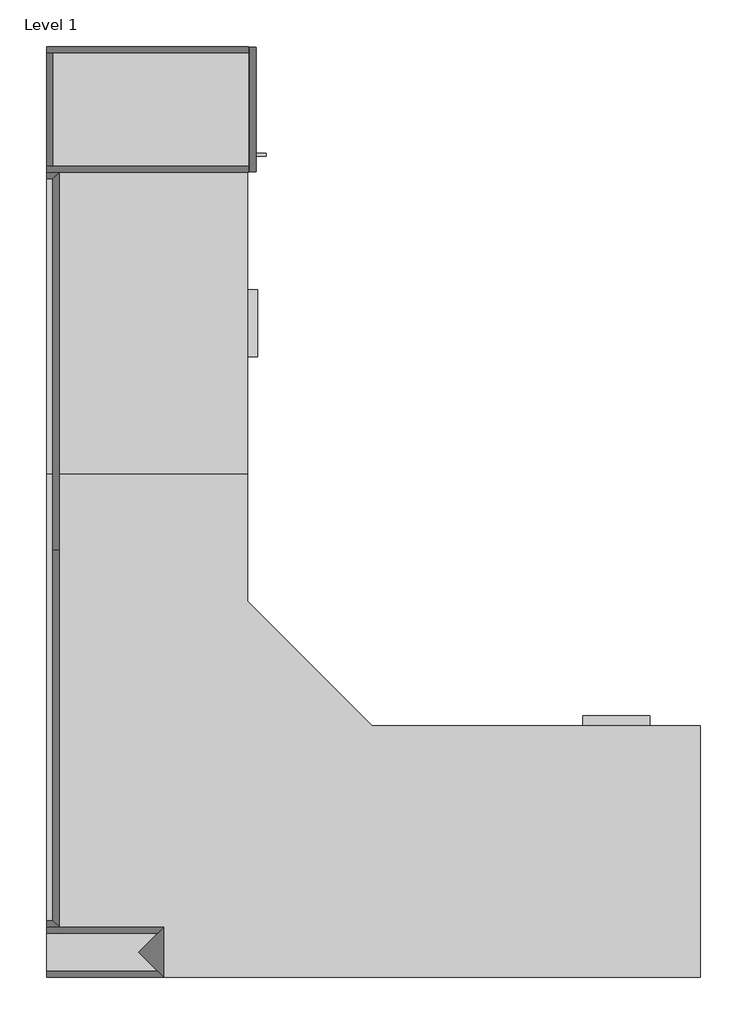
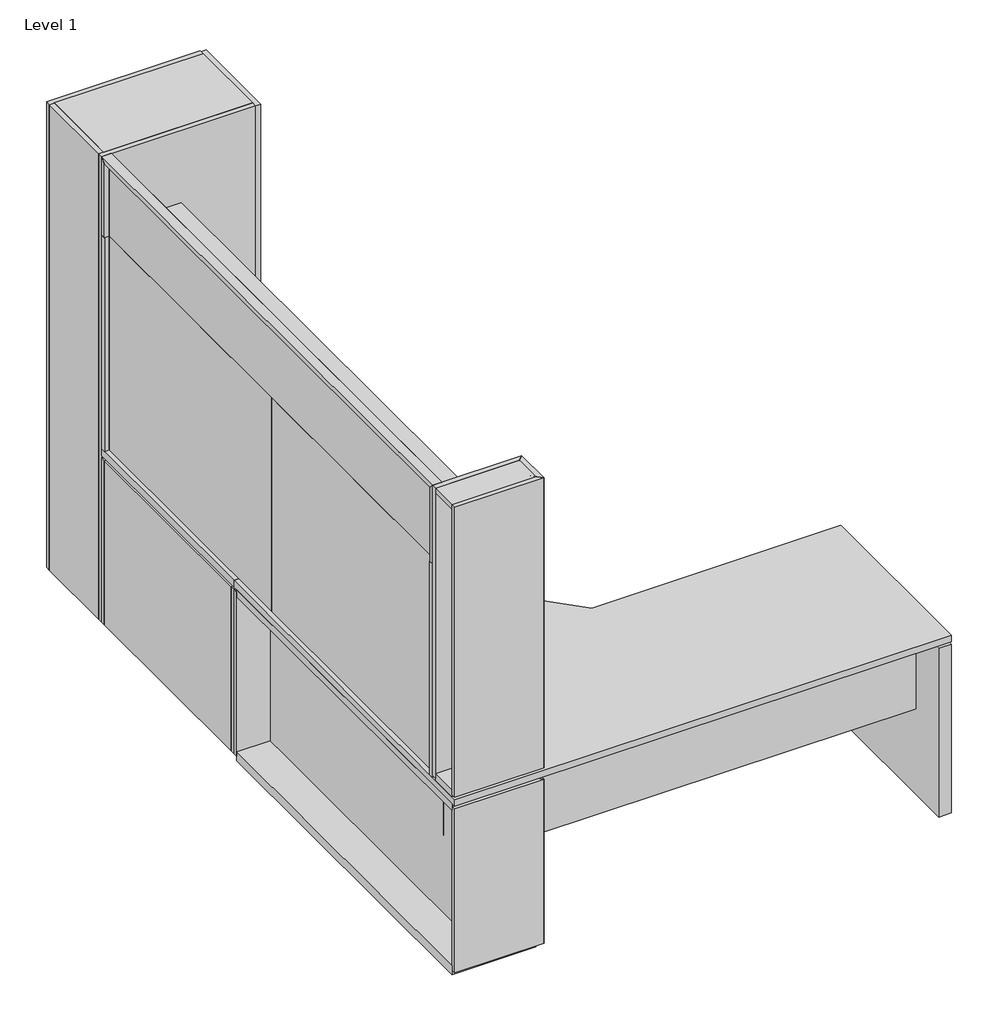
# One storey: 7 proxies.
"""IFC4 building model written with IfcOpenShell, lengths in millimetres."""

import ifcopenshell
import ifcopenshell.guid

model = None  # the IFC model being written
_history = None  # IfcOwnerHistory: only IFC2X3 demands one
_inside = {}  # id of a spatial element -> (the spatial element, [elements in it])
_under = {}  # id of a project, library or spatial element -> (it, [spatial elements below it])
_declared = {}  # id of a project -> (the project, [libraries it declares])
_typed = {}  # id of a type object -> (the type object, [elements of that type])
_made_of = {}  # id of a material, layer set ... -> (it, [elements and type objects made of it])


def new_model(schema):
    """Start an empty IFC model of exactly this schema.

    Asked for "IFC4X3", IfcOpenShell would pick the latest addendum, in which some entities
    have other attributes; the version numbers below select the first issue.
    IFC2X3 requires an IfcOwnerHistory on every rooted entity: one is made here for all.
    """
    global model, _history
    if schema == "IFC4X3":
        model = ifcopenshell.file(schema_version=(4, 3, 0, 0))
    else:
        model = ifcopenshell.file(schema=schema)
    _inside.clear()
    _under.clear()
    _declared.clear()
    _typed.clear()
    _made_of.clear()
    _history = None
    if model.schema == "IFC2X3":
        org = make("IfcOrganization", Name="unknown")
        user = make(
            "IfcPersonAndOrganization",
            ThePerson=make("IfcPerson", FamilyName="unknown"),
            TheOrganization=org,
        )
        app = make(
            "IfcApplication",
            ApplicationDeveloper=org,
            Version="unknown",
            ApplicationFullName="unknown",
            ApplicationIdentifier="unknown",
        )
        _history = make(
            "IfcOwnerHistory",
            OwningUser=user,
            OwningApplication=app,
            ChangeAction="ADDED",
            CreationDate=0,
        )
    return model


def make(cls, **values):
    """One entity of the class cls with the attributes given. An attribute that is None is left unset."""
    return model.create_entity(
        cls, **{name: value for name, value in values.items() if value is not None}
    )


def rooted(cls, **values):
    """An entity with a GlobalId (a new one), such as an element, a storey or a relation."""
    return make(cls, GlobalId=ifcopenshell.guid.new(), OwnerHistory=_history, **values)


def si_unit(unit_type, name, prefix=None):
    """IfcSIUnit, for example si_unit("LENGTHUNIT", "METRE", prefix="MILLI")."""
    return make("IfcSIUnit", UnitType=unit_type, Prefix=prefix, Name=name)


def assignment(units):
    """IfcUnitAssignment: the units of a project."""
    return None if units is None else make("IfcUnitAssignment", Units=units)


def point(xyz):
    """IfcCartesianPoint."""
    return None if xyz is None else make("IfcCartesianPoint", Coordinates=xyz)


def direction(xyz):
    """IfcDirection."""
    return None if xyz is None else make("IfcDirection", DirectionRatios=xyz)


def frame(location, z_axis=None, x_axis=None):
    """IfcAxis2Placement3D, a coordinate frame: its origin and axes. An axis left out is left unset."""
    return make(
        "IfcAxis2Placement3D",
        Location=point(location),
        Axis=direction(z_axis),
        RefDirection=direction(x_axis),
    )


def origin():
    """The frame at (0, 0, 0) with its axes left unset."""
    return frame((0.0, 0.0, 0.0))


def origin_with_axes():
    """The frame at (0, 0, 0) with the z axis (0, 0, 1) and the x axis (1, 0, 0) written out."""
    return frame((0.0, 0.0, 0.0), z_axis=(0.0, 0.0, 1.0), x_axis=(1.0, 0.0, 0.0))


def place(relative_to, where):
    """IfcLocalPlacement: puts the frame where relative to a parent placement (None: the world)."""
    return make(
        "IfcLocalPlacement", PlacementRelTo=relative_to, RelativePlacement=where
    )


def context(
    kind, dimensions, precision=None, world=None, true_north=None, identifier=None
):
    """IfcGeometricRepresentationContext, for example the 3D "Model" context."""
    return make(
        "IfcGeometricRepresentationContext",
        ContextIdentifier=identifier,
        ContextType=kind,
        CoordinateSpaceDimension=dimensions,
        Precision=precision,
        WorldCoordinateSystem=world,
        TrueNorth=true_north,
    )


def project(units=None, contexts=None):
    """IfcProject with its units and contexts."""
    return rooted(
        "IfcProject",
        Name="project",
        RepresentationContexts=contexts,
        UnitsInContext=assignment(units),
    )


def spatial(cls, under=None, at=None, **own):
    """A site, building, storey or space (cls), placed at a placement, below another one or the project."""
    s = rooted(cls, ObjectPlacement=at, **own)
    if under is not None:
        _under.setdefault(under.id(), (under, []))[1].append(s)
    return s


def polyline(points):
    """IfcPolyline through the points."""
    return make("IfcPolyline", Points=[point(p) for p in points])


def outline(outer, holes=None, kind="AREA"):
    """IfcArbitraryClosedProfileDef: a profile drawn as a closed curve; with holes, ...WithVoids."""
    if holes is None:
        return make("IfcArbitraryClosedProfileDef", ProfileType=kind, OuterCurve=outer)
    return make(
        "IfcArbitraryProfileDefWithVoids",
        ProfileType=kind,
        OuterCurve=outer,
        InnerCurves=holes,
    )


def extrude(swept, where, along, depth):
    """IfcExtrudedAreaSolid: the profile swept, set in the frame where, extruded along a direction by depth."""
    return make(
        "IfcExtrudedAreaSolid",
        SweptArea=swept,
        Position=where,
        ExtrudedDirection=direction(along),
        Depth=depth,
    )


def faces_of(points, faces, orient=None, outer=None):
    """IfcFace entities. A face is a list of loops; a loop is a list of indices into points, from 0.

    orient and outer hold one flag for each loop. By default every Orientation is true, the
    first loop of a face is its IfcFaceOuterBound and the others are IfcFaceBound.
    """
    made = []
    for i, loops in enumerate(faces):
        bounds = []
        for j, loop in enumerate(loops):
            is_outer = j == 0 if outer is None else outer[i][j]
            bounds.append(
                make(
                    "IfcFaceOuterBound" if is_outer else "IfcFaceBound",
                    Bound=make("IfcPolyLoop", Polygon=[points[k] for k in loop]),
                    Orientation=True if orient is None else orient[i][j],
                )
            )
        made.append(make("IfcFace", Bounds=bounds))
    return made


def faceted_brep(points, faces, orient=None, outer=None, voids=None):
    """IfcFacetedBrep: a solid bounded by flat faces; with voids (closed shells), ...WithVoids."""
    shared = [point(p) for p in points]
    hull = make("IfcClosedShell", CfsFaces=faces_of(shared, faces, orient, outer))
    if voids is None:
        return make("IfcFacetedBrep", Outer=hull)
    return make(
        "IfcFacetedBrepWithVoids",
        Outer=hull,
        Voids=[
            make(cls, CfsFaces=faces_of(shared, fs, o, b)) for cls, fs, o, b in voids
        ],
    )


def shape(context_of_items, identifier, shape_type, items):
    """IfcShapeRepresentation: the items that make up one representation, for example the "Body"."""
    return make(
        "IfcShapeRepresentation",
        ContextOfItems=context_of_items,
        RepresentationIdentifier=identifier,
        RepresentationType=shape_type,
        Items=items,
    )


def source(mapping_origin, context_of_items, identifier, shape_type, items):
    """IfcRepresentationMap: a shape defined once, which mapped items show again and again."""
    return make(
        "IfcRepresentationMap",
        MappingOrigin=mapping_origin,
        MappedRepresentation=shape(context_of_items, identifier, shape_type, items),
    )


def transform(
    local_origin,
    x_axis=None,
    y_axis=None,
    z_axis=None,
    scale=None,
    scale2=None,
    scale3=None,
    uniform=True,
):
    """IfcCartesianTransformationOperator3D, or its non-uniform kind. x_axis, y_axis, z_axis: its Axis1, 2, 3."""
    if uniform:
        return make(
            "IfcCartesianTransformationOperator3D",
            Axis1=direction(x_axis),
            Axis2=direction(y_axis),
            LocalOrigin=point(local_origin),
            Scale=scale,
            Axis3=direction(z_axis),
        )
    return make(
        "IfcCartesianTransformationOperator3DnonUniform",
        Axis1=direction(x_axis),
        Axis2=direction(y_axis),
        LocalOrigin=point(local_origin),
        Scale=scale,
        Axis3=direction(z_axis),
        Scale2=scale2,
        Scale3=scale3,
    )


def mapped(mapping_source, mapping_target):
    """IfcMappedItem: shows the shape of a source again, moved by a transform."""
    return make(
        "IfcMappedItem", MappingSource=mapping_source, MappingTarget=mapping_target
    )


def made_of(thing, what):
    """Note that an element or type object is made of a material, layer set ...; save() writes the relation."""
    if what is not None:
        _made_of.setdefault(what.id(), (what, []))[1].append(thing)
    return thing


def element(
    cls,
    number,
    at=None,
    inside=None,
    cuts=None,
    type_object=None,
    material=None,
    context=None,
    identifier="Body",
    shape_type=None,
    held_by="IfcProductDefinitionShape",
    body=None,
    shapes=None,
    **own,
):
    """One element of the class cls, such as IfcWall. Its Tag is "e" and its number.

    at: its placement. inside: the storey or other place that contains it. cuts: it is an
    opening in that element (IfcRelVoidsElement). A single representation is given by context,
    identifier, shape_type and body (its items); several are given by shapes. held_by: the class
    of the entity that holds the representations. save() writes the other relations.
    """
    e = rooted(cls, Tag="e%d" % number, ObjectPlacement=at, **own)
    if body is not None:
        shapes = [shape(context, identifier, shape_type, body)]
    if shapes is not None:
        e.Representation = make(held_by, Representations=shapes)
    if inside is not None:
        _inside.setdefault(inside.id(), (inside, []))[1].append(e)
    if cuts is not None:
        rooted(
            "IfcRelVoidsElement", RelatingBuildingElement=cuts, RelatedOpeningElement=e
        )
    if type_object is not None:
        _typed.setdefault(type_object.id(), (type_object, []))[1].append(e)
    return made_of(e, material)


def aggregate(whole, parts):
    """IfcRelAggregates: a whole, such as a stair, and the parts it consists of."""
    return rooted("IfcRelAggregates", RelatingObject=whole, RelatedObjects=parts)


def save(model, path):
    """Write the relations noted so far, then the file.

    IfcRelAggregates (storeys below a building ...), IfcRelContainedInSpatialStructure (elements
    in a storey), IfcRelDefinesByType, IfcRelAssociatesMaterial and IfcRelDeclares: one each for
    every whole, place, type object, material and project.
    """
    for whole, parts in _under.values():
        aggregate(whole, parts)
    for where, things in _inside.values():
        rooted(
            "IfcRelContainedInSpatialStructure",
            RelatedElements=things,
            RelatingStructure=where,
        )
    for kind, things in _typed.values():
        rooted("IfcRelDefinesByType", RelatedObjects=things, RelatingType=kind)
    for what, things in _made_of.values():
        rooted("IfcRelAssociatesMaterial", RelatedObjects=things, RelatingMaterial=what)
    for by, libraries in _declared.values():
        rooted("IfcRelDeclares", RelatingContext=by, RelatedDefinitions=libraries)
    model.write(path)


def generic_models_0d6153ff(model_context):
    return source(origin(), model_context, "Body", "SweptSolid", [
        extrude(outline(polyline([(58.18125, 1014.8), (58.18125, 812.8), (48.18125, 812.8), (48.18125, 1014.8), (58.18125, 1014.8)])), frame((0.0, 0.0, 635.0), z_axis=(0.0, 0.0, 1.0), x_axis=(1.0, 0.0, 0.0)), (0.0, 0.0, 1.0), 30.0),
        extrude(outline(polyline([(19.05, 1962.15), (19.05, 1981.2), (361.95, 1981.2), (361.95, 1962.15), (19.05, 1962.15)])), frame((0.0, 0.0, 19.05), z_axis=(0.0, 0.0, 1.0), x_axis=(1.0, 0.0, 0.0)), (0.0, 0.0, 1.0), 593.725),
        extrude(outline(polyline([(19.05, 1981.2), (19.05, 19.05), (0.0, 19.05), (0.0, 1981.2), (19.05, 1981.2)])), origin_with_axes(), (0.0, 0.0, 1.0), 612.775),
        extrude(outline(polyline([(2.38125, 19.05), (2.38125, 1978.81875), (378.61875, 1978.81875), (378.61875, 19.05), (2.38125, 19.05)])), frame((0.0, 0.0, 615.95), z_axis=(0.0, 0.0, 1.0), x_axis=(1.0, 0.0, 0.0)), (0.0, 0.0, 1.0), 19.05),
        extrude(outline(polyline([(361.95, 38.1), (361.95, 0.0), (19.05, 0.0), (19.05, 38.1), (361.95, 38.1)])), frame((0.0, 0.0, 19.05), z_axis=(0.0, 0.0, 1.0), x_axis=(1.0, 0.0, 0.0)), (0.0, 0.0, 1.0), 593.725),
        extrude(outline(polyline([(361.95, 19.05), (361.95, 1981.2), (381.0, 1981.2), (381.0, 19.05), (361.95, 19.05)])), origin_with_axes(), (0.0, 0.0, 1.0), 612.775),
        extrude(outline(polyline([(361.95, 1981.2), (361.95, 19.05), (19.05, 19.05), (19.05, 1981.2), (361.95, 1981.2)])), origin_with_axes(), (0.0, 0.0, 1.0), 19.05),
    ])


def generic_models_f321ca36(model_context):
    return source(origin(), model_context, "Body", "SolidModel", [
        extrude(outline(polyline([(336.55, 0.0), (317.5, -19.05), (-19.05, -19.05), (-19.05, 0.0), (336.55, 0.0)])), frame((0.0, -1222.375, 0.0), z_axis=(0.0, 1.0, 0.0), x_axis=(0.0, 0.0, 1.0)), (0.0, 0.0, 1.0), 1222.375),
        faceted_brep([(2286.0, 0.0, -19.05), (2286.0, 0.0, 19.05), (2286.0, -330.2, 19.05), (2286.0, -330.2, -19.05), (2266.95, -19.05, 0.0), (2266.95, -330.2, 0.0), (2266.95, -19.05, -19.05), (2266.95, -330.2, -19.05)], [[[0, 1, 2, 3]], [[1, 4, 5, 2]], [[4, 6, 7, 5]], [[6, 0, 3, 7]], [[3, 2, 5, 7]], [[4, 1, 0, 6]]]),
        faceted_brep([(19.05, -19.05, -19.05), (19.05, -19.05, 0.0), (19.05, -330.2, 0.0), (19.05, -330.2, -19.05), (0.0, 0.0, 19.05), (0.0, -330.2, 19.05), (0.0, 0.0, -19.05), (0.0, -330.2, -19.05)], [[[0, 1, 2, 3]], [[1, 4, 5, 2]], [[4, 6, 7, 5]], [[6, 0, 3, 7]], [[3, 2, 5, 7]], [[4, 1, 0, 6]]]),
        extrude(outline(polyline([(2286.0, -330.2), (0.0, -330.2), (0.0, -304.8), (2286.0, -304.8), (2286.0, -330.2)])), frame((0.0, 0.0, 19.05), z_axis=(0.0, 0.0, 1.0), x_axis=(1.0, 0.0, 0.0)), (0.0, 0.0, 1.0), 279.4),
        extrude(outline(polyline([(0.0, 2266.15625), (19.05, 2285.20625), (19.05, 1143.396875), (0.0, 1143.396875), (0.0, 2266.15625)])), frame((0.0, -1231.10625, 0.0), z_axis=(0.0, 1.0, 0.0), x_axis=(0.0, 0.0, 1.0)), (0.0, 0.0, 1.0), 900.1125),
        extrude(outline(polyline([(19.05, 0.79375), (-19.05, 0.79375), (-19.05, 19.84375), (0.0, 19.84375), (19.05, 0.79375)])), frame((0.0, -1231.10625, 0.0), z_axis=(0.0, 1.0, 0.0), x_axis=(0.0, 0.0, 1.0)), (0.0, 0.0, 1.0), 900.1125),
        extrude(outline(polyline([(-19.05, -152.4), (-19.05, -133.35), (317.5, -133.35), (336.55, -152.4), (-19.05, -152.4)])), frame((0.0, -1222.375, 0.0), z_axis=(0.0, 1.0, 0.0), x_axis=(0.0, 0.0, 1.0)), (0.0, 0.0, 1.0), 1222.375),
        extrude(outline(polyline([(-133.35, 0.0), (-19.05, 0.0), (-19.05, -19.05), (-133.35, -19.05), (-133.35, 0.0)])), frame((0.0, 0.0, -19.05), z_axis=(0.0, 0.0, 1.0), x_axis=(1.0, 0.0, 0.0)), (0.0, 0.0, 1.0), 336.55),
        faceted_brep([(0.0, 0.0, -19.05), (19.05, -19.05, -19.05), (19.05, -19.05, 0.0), (0.0, 0.0, 19.05), (2266.95, -19.05, -19.05), (2266.95, -19.05, 0.0), (2286.0, 0.0, -19.05), (2286.0, 0.0, 19.05)], [[[0, 1, 2, 3]], [[2, 1, 4, 5]], [[1, 0, 6, 4]], [[4, 6, 7, 5]], [[0, 3, 7, 6]], [[3, 2, 5, 7]]]),
        extrude(outline(polyline([(-19.05, 2266.15625), (-19.05, 2285.20625), (19.05, 2285.20625), (0.0, 2266.15625), (-19.05, 2266.15625)])), frame((0.0, -1231.10625, 0.0), z_axis=(0.0, 1.0, 0.0), x_axis=(0.0, 0.0, 1.0)), (0.0, 0.0, 1.0), 900.1125),
        extrude(outline(polyline([(19.05, 0.79375), (0.0, 19.84375), (0.0, 1142.603125), (19.05, 1142.603125), (19.05, 0.79375)])), frame((0.0, -1231.10625, 0.0), z_axis=(0.0, 1.0, 0.0), x_axis=(0.0, 0.0, 1.0)), (0.0, 0.0, 1.0), 900.1125),
        faceted_brep([(19.05, -330.2, 0.0), (0.0, -330.2, 19.05), (0.0, 0.0, 19.05), (19.05, -19.05, 0.0), (2266.95, -19.05, 0.0), (2266.95, -330.2, 0.0), (2286.0, 0.0, 19.05), (2286.0, -330.2, 19.05)], [[[0, 1, 2, 3]], [[0, 3, 4, 5]], [[3, 2, 6, 4]], [[4, 6, 7, 5]], [[1, 0, 5, 7]], [[1, 7, 6, 2]]]),
        extrude(outline(polyline([(336.55, -152.4), (260.35, -76.2), (336.55, 0.0), (336.55, -152.4)])), frame((0.0, -1222.375, 0.0), z_axis=(0.0, 1.0, 0.0), x_axis=(0.0, 0.0, 1.0)), (0.0, 0.0, 1.0), 1222.375),
        extrude(outline(polyline([(-19.05, -1231.9), (-133.35, -1231.9), (-133.35, -1203.325), (-19.05, -1203.325), (-19.05, -1231.9)])), frame((0.0, 0.0, -19.05), z_axis=(0.0, 0.0, 1.0), x_axis=(1.0, 0.0, 0.0)), (0.0, 0.0, 1.0), 336.55),
    ])


def generic_models_f3be4459(model_context):
    return source(origin(), model_context, "Body", "SweptSolid", [
        extrude(outline(polyline([(1981.2, -9.525), (1981.2, -720.725), (1930.4, -720.725), (1930.4, -9.525), (1981.2, -9.525)])), frame((0.0, 0.0, 762.0), z_axis=(0.0, 0.0, 1.0), x_axis=(1.0, 0.0, 0.0)), (0.0, 0.0, 1.0), 762.0),
        extrude(outline(polyline([(1943.1, -28.575), (133.35, -28.575), (133.35, 0.0), (1943.1, 0.0), (1943.1, -28.575)])), frame((0.0, 0.0, 1328.7375), z_axis=(0.0, 0.0, 1.0), x_axis=(1.0, 0.0, 0.0)), (0.0, 0.0, 1.0), 25.4),
        extrude(outline(polyline([(762.0, 1981.2), (1524.0, 1981.2), (1524.0, 0.0), (0.0, 0.0), (0.0, 609.6), (384.8292429, 609.6), (762.0, 986.7707571), (762.0, 1981.2)])), frame((0.0, 0.0, 0.0), z_axis=(0.0, 1.0, 0.0), x_axis=(0.0, 0.0, 1.0)), (0.0, 0.0, 1.0), 28.575),
        extrude(outline(polyline([(1962.15, -9.525), (1930.4, -9.525), (1930.4, 0.0), (1962.15, 0.0), (1962.15, -9.525)])), frame((0.0, 0.0, 781.05), z_axis=(0.0, 0.0, 1.0), x_axis=(1.0, 0.0, 0.0)), (0.0, 0.0, 1.0), 723.9),
        extrude(outline(polyline([(1930.4, -9.525), (1930.4, -356.87), (152.4, -356.87), (152.4, -9.525), (1930.4, -9.525)])), frame((0.0, 0.0, 1354.1375), z_axis=(0.0, 0.0, 1.0), x_axis=(1.0, 0.0, 0.0)), (0.0, 0.0, 1.0), 15.875),
    ])


def generic_models_fad06939(model_context):
    return source(origin(), model_context, "Body", "SweptSolid", [
        extrude(outline(polyline([(-50.8192057, 312.8683988), (151.1807943, 312.8683988), (151.1807943, 302.8683988), (-50.8192057, 302.8683988), (-50.8192057, 312.8683988)])), frame((0.0, 0.0, 304.8), z_axis=(0.0, 0.0, 1.0), x_axis=(1.0, 0.0, 0.0)), (0.0, 0.0, 1.0), 30.0),
        extrude(outline(polyline([(-387.9692057, 339.6183988), (-387.9692057, 368.1933988), (488.3307943, 368.1933988), (488.3307943, 339.6183988), (-387.9692057, 339.6183988)])), frame((0.0, 0.0, -285.75), z_axis=(0.0, 0.0, 1.0), x_axis=(1.0, 0.0, 0.0)), (0.0, 0.0, 1.0), 568.325),
        extrude(outline(polyline([(-387.9692057, 358.6683988), (-387.9692057, -333.4816012), (-407.0192057, -333.4816012), (-407.0192057, 358.6683988), (-387.9692057, 358.6683988)])), frame((0.0, 0.0, -304.8), z_axis=(0.0, 0.0, 1.0), x_axis=(1.0, 0.0, 0.0)), (0.0, 0.0, 1.0), 587.375),
        extrude(outline(polyline([(504.9995443, 358.6683988), (504.9995443, 13.7840238), (-404.6379557, 13.7840238), (-404.6379557, 358.6683988), (504.9995443, 358.6683988)])), frame((0.0, 0.0, 285.75), z_axis=(0.0, 0.0, 1.0), x_axis=(1.0, 0.0, 0.0)), (0.0, 0.0, 1.0), 19.05),
        extrude(outline(polyline([(-404.6379557, 11.4027738), (504.9995443, 11.4027738), (504.9995443, -333.4816012), (-404.6379557, -333.4816012), (-404.6379557, 11.4027738)])), frame((0.0, 0.0, 285.75), z_axis=(0.0, 0.0, 1.0), x_axis=(1.0, 0.0, 0.0)), (0.0, 0.0, 1.0), 19.05),
        extrude(outline(polyline([(488.3307943, -314.4316012), (488.3307943, -352.5316012), (-387.9692057, -352.5316012), (-387.9692057, -314.4316012), (488.3307943, -314.4316012)])), frame((0.0, 0.0, -285.75), z_axis=(0.0, 0.0, 1.0), x_axis=(1.0, 0.0, 0.0)), (0.0, 0.0, 1.0), 568.325),
        extrude(outline(polyline([(488.3307943, -333.4816012), (488.3307943, 358.6683988), (507.3807943, 358.6683988), (507.3807943, -333.4816012), (488.3307943, -333.4816012)])), frame((0.0, 0.0, -304.8), z_axis=(0.0, 0.0, 1.0), x_axis=(1.0, 0.0, 0.0)), (0.0, 0.0, 1.0), 587.375),
        extrude(outline(polyline([(488.3307943, 358.6683988), (488.3307943, -333.4816012), (-387.9692057, -333.4816012), (-387.9692057, 358.6683988), (488.3307943, 358.6683988)])), frame((0.0, 0.0, -304.8), z_axis=(0.0, 0.0, 1.0), x_axis=(1.0, 0.0, 0.0)), (0.0, 0.0, 1.0), 19.05),
        extrude(outline(polyline([(-50.8192057, -34.3972262), (151.1807943, -34.3972262), (151.1807943, -44.3972262), (-50.8192057, -44.3972262), (-50.8192057, -34.3972262)])), frame((0.0, 0.0, 304.8), z_axis=(0.0, 0.0, 1.0), x_axis=(1.0, 0.0, 0.0)), (0.0, 0.0, 1.0), 30.0),
    ])


def generic_models_9e779cf5(model_context):
    return source(origin(), model_context, "Body", "SweptSolid", [
        extrude(outline(polyline([(133.35, 692.15), (152.4, 692.15), (152.4, 0.0), (133.35, 0.0), (133.35, 692.15)])), frame((0.0, 0.0, -1524.0), z_axis=(0.0, 0.0, 1.0), x_axis=(1.0, 0.0, 0.0)), (0.0, 0.0, 1.0), 1370.0125),
        extrude(outline(polyline([(336.55, 19.05), (336.55, -19.05), (0.0, -19.05), (0.0, 19.05), (336.55, 19.05)])), frame((0.0, 0.0, -1504.95), z_axis=(0.0, 0.0, 1.0), x_axis=(1.0, 0.0, 0.0)), (0.0, 0.0, 1.0), 1485.9),
        extrude(outline(polyline([(-153.9875, 355.6), (-134.9375, 336.55), (-134.9375, 133.35), (-153.9875, 133.35), (-153.9875, 355.6)])), frame((0.0, 0.0, 0.0), z_axis=(0.0, 1.0, 0.0), x_axis=(0.0, 0.0, 1.0)), (0.0, 0.0, 1.0), 692.15),
        extrude(outline(polyline([(336.55, 701.675), (336.55, 673.1), (0.0, 673.1), (0.0, 701.675), (336.55, 701.675)])), frame((0.0, 0.0, -1504.95), z_axis=(0.0, 0.0, 1.0), x_axis=(1.0, 0.0, 0.0)), (0.0, 0.0, 1.0), 1485.9),
        extrude(outline(polyline([(133.35, 347.18625), (133.35, 692.15), (152.4, 692.15), (152.4, 347.18625), (133.35, 347.18625)])), frame((0.0, 0.0, -1521.61875), z_axis=(0.0, 0.0, 1.0), x_axis=(1.0, 0.0, 0.0)), (0.0, 0.0, 1.0), 1214.4375),
        extrude(outline(polyline([(0.0, 0.0), (0.0, 692.15), (133.35, 692.15), (133.35, 0.0), (0.0, 0.0)])), frame((0.0, 0.0, -1524.0), z_axis=(0.0, 0.0, 1.0), x_axis=(1.0, 0.0, 0.0)), (0.0, 0.0, 1.0), 19.05),
        extrude(outline(polyline([(-19.05, 336.55), (0.0, 355.6), (0.0, 0.0), (-19.05, 0.0), (-19.05, 336.55)])), frame((0.0, 0.0, 0.0), z_axis=(0.0, 1.0, 0.0), x_axis=(0.0, 0.0, 1.0)), (0.0, 0.0, 1.0), 692.15),
        extrude(outline(polyline([(0.0, 355.6), (-76.99375, 278.60625), (-153.9875, 355.6), (0.0, 355.6)])), frame((0.0, 0.0, 0.0), z_axis=(0.0, 1.0, 0.0), x_axis=(0.0, 0.0, 1.0)), (0.0, 0.0, 1.0), 692.15),
    ])


def generic_models_4533174e(model_context):
    return source(origin(), model_context, "Body", "SweptSolid", [
        extrude(outline(polyline([(304.596875, 291.545), (102.596875, 291.545), (102.596875, 301.545), (304.596875, 301.545), (304.596875, 291.545)])), frame((0.0, 0.0, 592.1375), z_axis=(0.0, 0.0, 1.0), x_axis=(1.0, 0.0, 0.0)), (0.0, 0.0, 1.0), 30.0),
        extrude(outline(polyline([(19.05, 381.0), (0.0, 400.05), (569.9125, 400.05), (569.9125, 381.0), (19.05, 381.0)])), frame((0.0, 0.0, 0.0), z_axis=(0.0, 1.0, 0.0), x_axis=(0.0, 0.0, 1.0)), (0.0, 0.0, 1.0), 347.345),
        extrude(outline(polyline([(0.0, 400.05), (200.025, 200.025), (0.0, 0.0), (0.0, 400.05)])), frame((0.0, 0.0, 0.0), z_axis=(0.0, 1.0, 0.0), x_axis=(0.0, 0.0, 1.0)), (0.0, 0.0, 1.0), 328.295),
        extrude(outline(polyline([(19.05, 0.0), (19.05, 19.05), (381.0, 19.05), (381.0, 0.0), (19.05, 0.0)])), frame((0.0, 0.0, 19.05), z_axis=(0.0, 0.0, 1.0), x_axis=(1.0, 0.0, 0.0)), (0.0, 0.0, 1.0), 550.8625),
        extrude(outline(polyline([(397.66875, 347.345), (397.66875, 174.863125), (9.525, 174.863125), (9.525, 347.345), (397.66875, 347.345)])), frame((0.0, 0.0, 573.0875), z_axis=(0.0, 0.0, 1.0), x_axis=(1.0, 0.0, 0.0)), (0.0, 0.0, 1.0), 19.05),
        extrude(outline(polyline([(0.0, 0.0), (19.05, 19.05), (569.9125, 19.05), (569.9125, 0.0), (0.0, 0.0)])), frame((0.0, 0.0, 0.0), z_axis=(0.0, 1.0, 0.0), x_axis=(0.0, 0.0, 1.0)), (0.0, 0.0, 1.0), 347.345),
        extrude(outline(polyline([(381.0, 356.87), (381.0, 328.295), (19.05, 328.295), (19.05, 356.87), (381.0, 356.87)])), frame((0.0, 0.0, 25.4), z_axis=(0.0, 0.0, 1.0), x_axis=(1.0, 0.0, 0.0)), (0.0, 0.0, 1.0), 544.5125),
        extrude(outline(polyline([(9.525, 0.0), (9.525, 172.481875), (397.66875, 172.481875), (397.66875, 0.0), (9.525, 0.0)])), frame((0.0, 0.0, 573.0875), z_axis=(0.0, 0.0, 1.0), x_axis=(1.0, 0.0, 0.0)), (0.0, 0.0, 1.0), 19.05),
        extrude(outline(polyline([(304.596875, 116.681875), (102.596875, 116.681875), (102.596875, 126.681875), (304.596875, 126.681875), (304.596875, 116.681875)])), frame((0.0, 0.0, 592.1375), z_axis=(0.0, 0.0, 1.0), x_axis=(1.0, 0.0, 0.0)), (0.0, 0.0, 1.0), 30.0),
    ])


def generic_models_0bd24fbb(model_context):
    return source(origin(), model_context, "Body", "SweptSolid", [
        extrude(outline(polyline([(914.4, 0.0), (0.0, 0.0), (0.0, 28.575), (914.4, 28.575), (914.4, 0.0)])), frame((0.0, 0.0, -609.6), z_axis=(0.0, 0.0, 1.0), x_axis=(1.0, 0.0, 0.0)), (0.0, 0.0, 1.0), 609.6),
    ])


model = new_model("IFC4")

# Units and contexts
model_context = context("Model", 3, world=origin())
ifc_project = project(units=[si_unit("LENGTHUNIT", "METRE", prefix="MILLI")], contexts=[model_context])

# Site, building, storey
site = spatial("IfcSite", under=ifc_project)
building = spatial("IfcBuilding", under=site)
storey = spatial("IfcBuildingStorey", under=building, Name="Level 1", Elevation=0.0)

# Proxies
placement = place(None, origin())
generic_models_shape = generic_models_0d6153ff(model_context)
element("IfcBuildingElementProxy", 1, Name="BASYS^OFFICE 2_WARDROBE-15x25x78-RIGHT END", ObjectType="BASYS^OFFICE 2_WARDROBE-15x25x78-RIGHT END", at=placement, inside=storey, context=model_context, shape_type="MappedRepresentation", body=[
    mapped(generic_models_shape, transform((0.0, 0.0, 0.0), x_axis=(0.0, 1.0, 0.0), y_axis=(0.0, 0.0, 1.0), z_axis=(1.0, 0.0, 0.0))),
])
generic_models_2_shape = generic_models_f321ca36(model_context)
element("IfcBuildingElementProxy", 2, Name="BASYS^OFFICE 2_WALL HUNGS-1.50x48.50x96-FIXED SHELF W LIGHT", ObjectType="BASYS^OFFICE 2_WALL HUNGS-1.50x48.50x96-FIXED SHELF W LIGHT", at=placement, inside=storey, context=model_context, shape_type="MappedRepresentation", body=[
    mapped(generic_models_2_shape, transform((19.05, -2286.0, 1981.2), x_axis=(0.0, 1.0, 0.0), y_axis=(0.0, 0.0, 1.0), z_axis=(1.0, 0.0, 0.0))),
])
generic_models_3_shape = generic_models_f3be4459(model_context)
element("IfcBuildingElementProxy", 3, Name="BASYS^OFFICE 2_DESK-LOOP LEG LT", ObjectType="BASYS^OFFICE 2_DESK-LOOP LEG LT", at=placement, inside=storey, context=model_context, shape_type="MappedRepresentation", body=[
    mapped(generic_models_3_shape, transform((0.0, -914.4, 720.725), x_axis=(1.0, 0.0, 0.0), y_axis=(0.0, 0.0, 1.0), z_axis=(0.0, -1.0, 0.0))),
])
generic_models_4_shape = generic_models_fad06939(model_context)
element("IfcBuildingElementProxy", 4, Name="BASYS^24 DEEP PED_LEGAL LAT-FF PED", ObjectType="BASYS^24 DEEP PED_LEGAL LAT-FF PED", at=placement, inside=storey, context=model_context, shape_type="MappedRepresentation", body=[
    mapped(generic_models_4_shape, transform((304.8, -507.3807943, 352.5316012), x_axis=(0.0, 1.0, 0.0), y_axis=(0.0, 0.0, 1.0), z_axis=(1.0, 0.0, 0.0))),
])
generic_models_5_shape = generic_models_9e779cf5(model_context)
element("IfcBuildingElementProxy", 5, Name="BASYS^OFFICE 2_60 WIRE WALL-ACCESS RIGHT", ObjectType="BASYS^OFFICE 2_60 WIRE WALL-ACCESS RIGHT", at=placement, inside=storey, context=model_context, shape_type="MappedRepresentation", body=[
    mapped(generic_models_5_shape, transform((0.0, -2438.4, 19.05), x_axis=(1.0, 0.0, 0.0), y_axis=(0.0, 0.0, 1.0), z_axis=(0.0, -1.0, 0.0))),
])
generic_models_6_shape = generic_models_4533174e(model_context)
element("IfcBuildingElementProxy", 6, Name="BASYS^23.3125 HANGING PED_LETTER LEFT-BB PED", ObjectType="BASYS^23.3125 HANGING PED_LETTER LEFT-BB PED", at=placement, inside=storey, context=model_context, shape_type="MappedRepresentation", body=[
    mapped(generic_models_6_shape, transform((1930.4, -2268.5375, 363.855), x_axis=(-1.0, 0.0, 0.0), y_axis=(0.0, 0.0, 1.0), z_axis=(0.0, 1.0, 0.0))),
])
generic_models_7_shape = generic_models_0bd24fbb(model_context)
element("IfcBuildingElementProxy", 7, Name="BASYS^PEDESTALS_OVERLAY TOPS-24x36", ObjectType="BASYS^PEDESTALS_OVERLAY TOPS-24x36", at=placement, inside=storey, context=model_context, shape_type="MappedRepresentation", body=[
    mapped(generic_models_7_shape, transform((609.6, -914.4, 720.725), x_axis=(0.0, 1.0, 0.0), y_axis=(0.0, 0.0, 1.0), z_axis=(1.0, 0.0, 0.0))),
])

save(model, "model.ifc")
